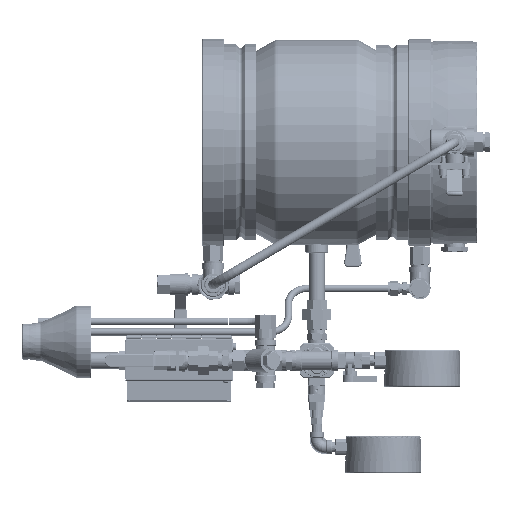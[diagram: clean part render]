
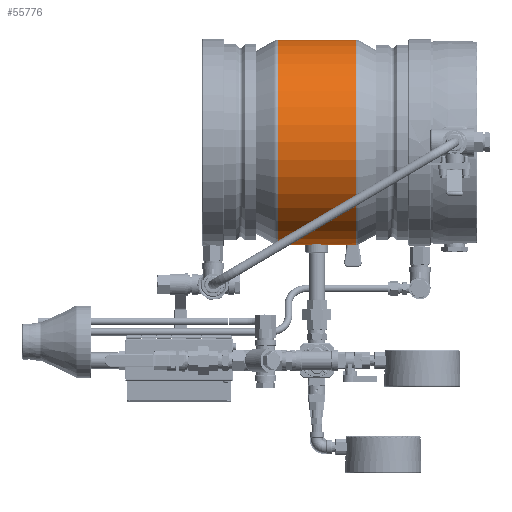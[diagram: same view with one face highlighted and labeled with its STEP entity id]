
A CAD part, front view. The second image highlights one B-rep face of the part: STEP entity #55776.
In plain terms, the highlighted cylindrical face has radius 135 mm (diameter 270 mm), a full revolution.
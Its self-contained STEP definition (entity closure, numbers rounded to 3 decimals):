
#2145=B_SPLINE_CURVE_WITH_KNOTS('',3,(#84267,#84268,#84269,#84270,#84271,
#84272,#84273,#84274,#84275,#84276,#84277,#84278,#84279,#84280,#84281,#84282,
#84283,#84284),.UNSPECIFIED.,.F.,.F.,(4,2,2,2,2,2,2,2,4),(2.111,
2.639,3.167,3.694,4.222,4.75,
5.278,5.805,6.333),.UNSPECIFIED.);
#2146=B_SPLINE_CURVE_WITH_KNOTS('',3,(#84285,#84286,#84287,#84288,#84289,
#84290,#84291,#84292,#84293,#84294,#84295,#84296,#84297,#84298,#84299,#84300,
#84301,#84302,#84303),.UNSPECIFIED.,.F.,.F.,(4,2,2,2,3,2,2,2,4),(6.333,
6.861,7.389,7.917,8.444,8.972,
9.5,10.028,10.555),.UNSPECIFIED.);
#11453=CYLINDRICAL_SURFACE('',#61511,135.);
#14008=FACE_BOUND('',#19013,.T.);
#14009=FACE_BOUND('',#19014,.T.);
#15301=FACE_OUTER_BOUND('',#19012,.T.);
#19012=EDGE_LOOP('',(#39980));
#19013=EDGE_LOOP('',(#39981,#39982));
#19014=EDGE_LOOP('',(#39983));
#23634=CIRCLE('',#61510,135.);
#23635=CIRCLE('',#61512,135.);
#25974=VERTEX_POINT('',#84265);
#25975=VERTEX_POINT('',#84266);
#25996=VERTEX_POINT('',#84395);
#25997=VERTEX_POINT('',#84398);
#31476=EDGE_CURVE('',#25974,#25975,#2145,.T.);
#31477=EDGE_CURVE('',#25975,#25974,#2146,.T.);
#31498=EDGE_CURVE('',#25996,#25996,#23634,.T.);
#31499=EDGE_CURVE('',#25997,#25997,#23635,.T.);
#39980=ORIENTED_EDGE('',*,*,#31499,.F.);
#39981=ORIENTED_EDGE('',*,*,#31476,.T.);
#39982=ORIENTED_EDGE('',*,*,#31477,.T.);
#39983=ORIENTED_EDGE('',*,*,#31498,.F.);
#55776=ADVANCED_FACE('',(#15301,#14008,#14009),#11453,.T.);
#61510=AXIS2_PLACEMENT_3D('',#84396,#68125,#68126);
#61511=AXIS2_PLACEMENT_3D('',#84397,#68127,#68128);
#61512=AXIS2_PLACEMENT_3D('',#84399,#68129,#68130);
#68125=DIRECTION('center_axis',(-1.,0.,0.));
#68126=DIRECTION('ref_axis',(0.,-1.,0.));
#68127=DIRECTION('center_axis',(1.,0.,0.));
#68128=DIRECTION('ref_axis',(0.,1.,0.));
#68129=DIRECTION('center_axis',(1.,0.,0.));
#68130=DIRECTION('ref_axis',(0.,-1.,0.));
#84265=CARTESIAN_POINT('',(220.98,55.923,135.));
#84266=CARTESIAN_POINT('',(248.98,55.923,135.));
#84267=CARTESIAN_POINT('Ctrl Pts',(220.98,55.923,135.));
#84268=CARTESIAN_POINT('Ctrl Pts',(220.98,57.682,135.));
#84269=CARTESIAN_POINT('Ctrl Pts',(221.332,59.558,134.962));
#84270=CARTESIAN_POINT('Ctrl Pts',(222.761,63.007,134.825));
#84271=CARTESIAN_POINT('Ctrl Pts',(223.838,64.58,134.728));
#84272=CARTESIAN_POINT('Ctrl Pts',(226.323,67.065,134.545));
#84273=CARTESIAN_POINT('Ctrl Pts',(227.896,68.142,134.448));
#84274=CARTESIAN_POINT('Ctrl Pts',(231.345,69.571,134.31));
#84275=CARTESIAN_POINT('Ctrl Pts',(233.221,69.923,134.272));
#84276=CARTESIAN_POINT('Ctrl Pts',(236.739,69.923,134.272));
#84277=CARTESIAN_POINT('Ctrl Pts',(238.615,69.571,134.31));
#84278=CARTESIAN_POINT('Ctrl Pts',(242.064,68.142,134.448));
#84279=CARTESIAN_POINT('Ctrl Pts',(243.637,67.065,134.545));
#84280=CARTESIAN_POINT('Ctrl Pts',(246.122,64.58,134.728));
#84281=CARTESIAN_POINT('Ctrl Pts',(247.199,63.007,134.825));
#84282=CARTESIAN_POINT('Ctrl Pts',(248.628,59.558,134.962));
#84283=CARTESIAN_POINT('Ctrl Pts',(248.98,57.682,135.));
#84284=CARTESIAN_POINT('Ctrl Pts',(248.98,55.923,135.));
#84285=CARTESIAN_POINT('Ctrl Pts',(248.98,55.923,135.));
#84286=CARTESIAN_POINT('Ctrl Pts',(248.98,54.164,135.));
#84287=CARTESIAN_POINT('Ctrl Pts',(248.628,52.288,134.962));
#84288=CARTESIAN_POINT('Ctrl Pts',(247.199,48.839,134.825));
#84289=CARTESIAN_POINT('Ctrl Pts',(246.122,47.266,134.728));
#84290=CARTESIAN_POINT('Ctrl Pts',(243.637,44.781,134.545));
#84291=CARTESIAN_POINT('Ctrl Pts',(242.064,43.704,134.448));
#84292=CARTESIAN_POINT('Ctrl Pts',(238.615,42.275,134.31));
#84293=CARTESIAN_POINT('Ctrl Pts',(236.739,41.923,134.272));
#84294=CARTESIAN_POINT('Ctrl Pts',(234.98,41.923,134.272));
#84295=CARTESIAN_POINT('Ctrl Pts',(233.221,41.923,134.272));
#84296=CARTESIAN_POINT('Ctrl Pts',(231.345,42.275,134.31));
#84297=CARTESIAN_POINT('Ctrl Pts',(227.896,43.704,134.448));
#84298=CARTESIAN_POINT('Ctrl Pts',(226.323,44.781,134.545));
#84299=CARTESIAN_POINT('Ctrl Pts',(223.838,47.266,134.728));
#84300=CARTESIAN_POINT('Ctrl Pts',(222.761,48.839,134.825));
#84301=CARTESIAN_POINT('Ctrl Pts',(221.332,52.288,134.962));
#84302=CARTESIAN_POINT('Ctrl Pts',(220.98,54.164,135.));
#84303=CARTESIAN_POINT('Ctrl Pts',(220.98,55.923,135.));
#84395=CARTESIAN_POINT('',(183.608,190.923,0.));
#84396=CARTESIAN_POINT('Origin',(183.608,55.923,0.));
#84397=CARTESIAN_POINT('Origin',(234.98,55.923,0.));
#84398=CARTESIAN_POINT('',(286.353,190.923,0.));
#84399=CARTESIAN_POINT('Origin',(286.353,55.923,0.));
